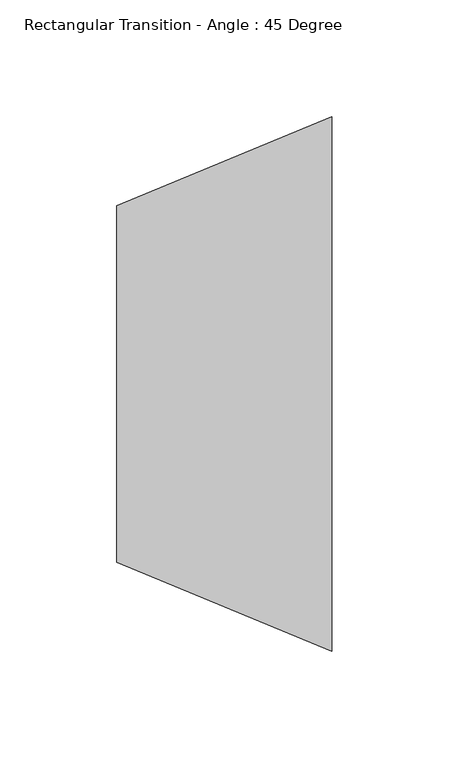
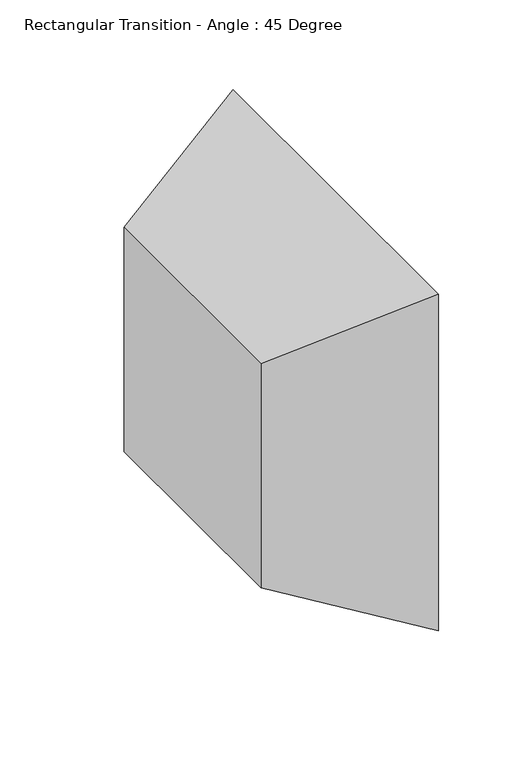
"""IFC4 building model written with IfcOpenShell, lengths in millimetres: duct fitting geometry, Rectangular Transition - Angle : 45 Degree."""

from ifc_helpers import new_model, si_unit, origin, place, context, project, spatial, faceted_brep, source, transform, mapped, element, save


def rectangular_transition_angle_45_degree_65630bf0(model_context):
    return source(origin(), model_context, "Body", "Brep", [
        faceted_brep([(91.9815367, -114.3, 114.3), (91.9815367, -114.3, -114.3), (91.9815367, 114.3, -114.3), (91.9815367, 114.3, 114.3), (0.0, -76.2, 76.2), (0.0, 76.2, 76.2), (0.0, 76.2, -76.2), (0.0, -76.2, -76.2)], [[[0, 1, 2, 3]], [[4, 5, 6, 7]], [[4, 7, 1, 0]], [[7, 6, 2, 1]], [[6, 5, 3, 2]], [[5, 4, 0, 3]]]),
    ])


if __name__ == "__main__":
    model = new_model("IFC4")
    model_context = context("Model", 3, world=origin())
    ifc_project = project(units=[si_unit("LENGTHUNIT", "METRE", prefix="MILLI")], contexts=[model_context])
    site = spatial("IfcSite", under=ifc_project)
    building = spatial("IfcBuilding", under=site)
    placement = place(None, origin())
    rectangular_transition_angle_45_degree_shape = rectangular_transition_angle_45_degree_65630bf0(model_context)
    element("IfcDuctFitting", 1, ObjectType="Rectangular Transition - Angle : 45 Degree", at=placement, inside=building, context=model_context, shape_type="MappedRepresentation", body=[
        mapped(rectangular_transition_angle_45_degree_shape, transform((0.0, 0.0, 0.0), x_axis=(1.0, 0.0, 0.0), y_axis=(0.0, 1.0, 0.0), z_axis=(0.0, 0.0, 1.0))),
    ])
    save(model, "model.ifc")
